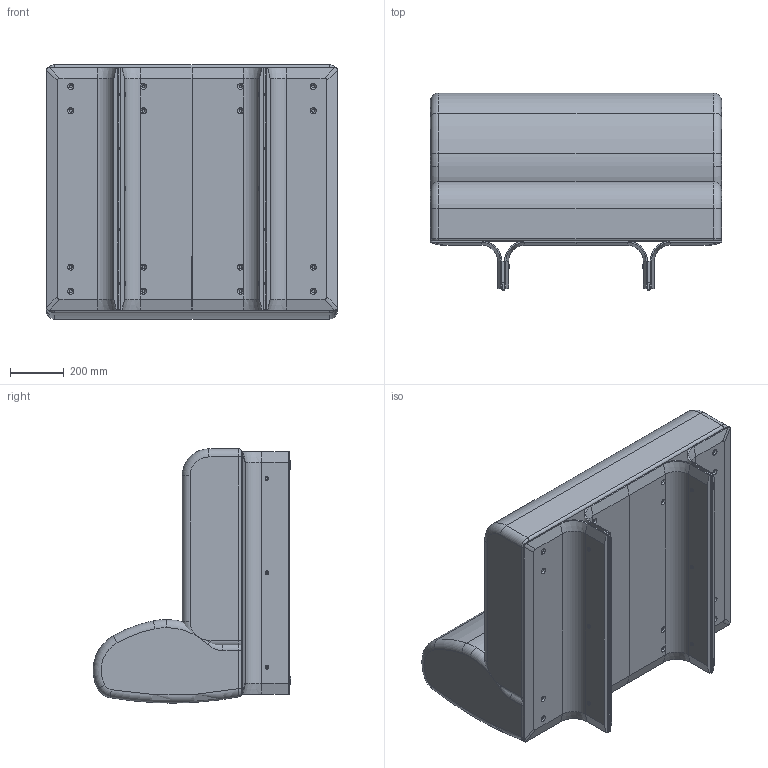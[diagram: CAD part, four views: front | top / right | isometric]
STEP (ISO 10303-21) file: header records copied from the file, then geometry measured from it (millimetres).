
FILE_DESCRIPTION (( 'STEP AP214' ), '1' );
FILE_NAME ('1080 central.STEP', '2024-06-05T12:45:52', ( '' ), ( '' ), 'SwSTEP 2.0', 'SolidWorks 2023', '' );
FILE_SCHEMA (( 'AUTOMOTIVE_DESIGN' ));
Length unit declared in the file: millimetre
Products named in the file (10): BASE_COMPONENTI_SEMIPONTE CENTRALE; PIEDINO_L900; boccola_borchia M6; BASE_COMPONENTI_SEMIPONTE TERMINALE; SEDILE_1080 CENTRALE GOMMA VERIFICARE ; BASE_DISTANZIALE_1cm; SCHIENALE_GOMMA_1080 centrale; 20PT8X30N scivolo IPEA; 1080 central; STAMI_SOFA_PLUS_BASE_ASSIEME_1080 CENTRALE o POUFF
Assembly tree (27 placements, depth 3):
  1080 central
    STAMI_SOFA_PLUS_BASE_ASSIEME_1080 CENTRALE o POUFF
      BASE_DISTANZIALE_1cm  x2
      PIEDINO_L900  x2
      20PT8X30N scivolo IPEA  x4
      BASE_COMPONENTI_SEMIPONTE CENTRALE  x2
      BASE_COMPONENTI_SEMIPONTE TERMINALE  x2
      boccola_borchia M6  x12
    SEDILE_1080 CENTRALE GOMMA VERIFICARE 
    SCHIENALE_GOMMA_1080 centrale
Bounding box: 1080 x 733.94 x 943.25 mm (x, y, z)
Volume: 343172942.9 mm3; surface area: 7588940.3 mm2
Topology: 26 solids, 26 shells, 695 faces, 1641 edges, 994 vertices
Faces by surface type: cylinder 309, plane 240, cone 72, torus 56, sphere 16, bspline 2
Entity records: 8667 total; most frequent: CARTESIAN_POINT 1678, DIRECTION 1554, ORIENTED_EDGE 1284, EDGE_CURVE 642, AXIS2_PLACEMENT_3D 627, VERTEX_POINT 392, CIRCLE 330, EDGE_LOOP 326
